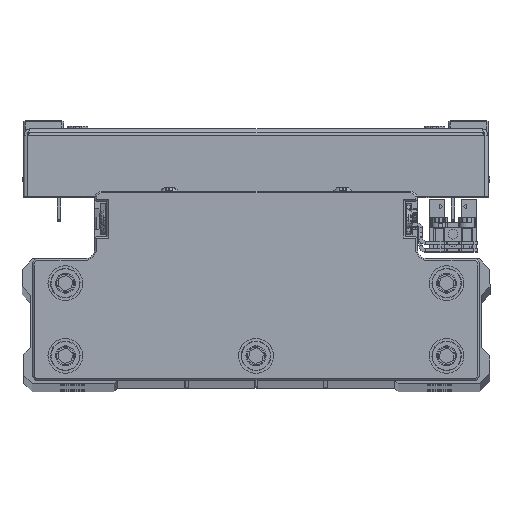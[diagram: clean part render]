
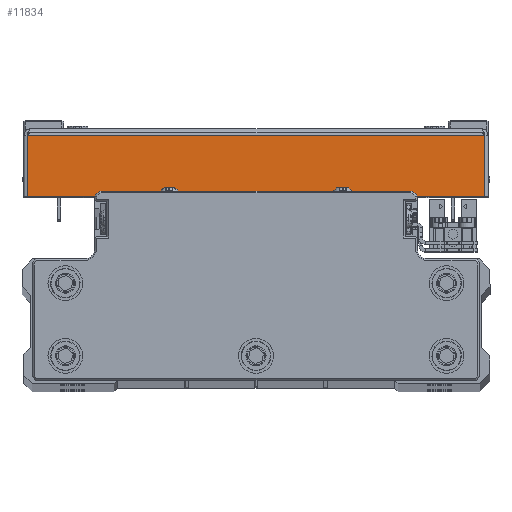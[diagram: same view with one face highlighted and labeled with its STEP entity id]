
A CAD part, top view. The second image highlights one B-rep face of the part: STEP entity #11834.
In plain terms, the highlighted planar face has unit normal (0, 0, 1) as drawn and (1, 0, 0) by its records, which use the part's own axes.
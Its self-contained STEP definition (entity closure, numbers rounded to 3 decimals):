
#1142 = CARTESIAN_POINT ( 'NONE',  ( 100., 1., 65.929 ) ) ;
#3382 = EDGE_CURVE ( 'NONE', #39316, #17747, #28381, .T. ) ;
#3865 = ORIENTED_EDGE ( 'NONE', *, *, #35550, .T. ) ;
#6025 = LINE ( 'NONE', #20052, #43029 ) ;
#10918 = DIRECTION ( 'NONE',  ( 0., 0., 1. ) ) ;
#10931 = VECTOR ( 'NONE', #40351, 1000. ) ;
#11445 = VECTOR ( 'NONE', #43370, 1000. ) ;
#11834 = ADVANCED_FACE ( 'NONE', ( #15943 ), #29958, .F. ) ;
#11977 = ORIENTED_EDGE ( 'NONE', *, *, #3382, .F. ) ;
#12318 = LINE ( 'NONE', #26333, #10931 ) ;
#12486 = DIRECTION ( 'NONE',  ( -1., 0., 0. ) ) ;
#12787 = ORIENTED_EDGE ( 'NONE', *, *, #40550, .F. ) ;
#15340 = LINE ( 'NONE', #29351, #11445 ) ;
#15943 = FACE_OUTER_BOUND ( 'NONE', #31593, .T. ) ;
#17747 = VERTEX_POINT ( 'NONE', #1142 ) ;
#19215 = AXIS2_PLACEMENT_3D ( 'NONE', #43957, #12486, #26512 ) ;
#20052 = CARTESIAN_POINT ( 'NONE',  ( 100., 0., -65.929 ) ) ;
#21204 = VERTEX_POINT ( 'NONE', #40613 ) ;
#24274 = ORIENTED_EDGE ( 'NONE', *, *, #36053, .T. ) ;
#24844 = VECTOR ( 'NONE', #10918, 1000. ) ;
#26333 = CARTESIAN_POINT ( 'NONE',  ( 100., 0., 65.929 ) ) ;
#26512 = DIRECTION ( 'NONE',  ( 0., -1., 0. ) ) ;
#28381 = LINE ( 'NONE', #42404, #24844 ) ;
#28740 = CARTESIAN_POINT ( 'NONE',  ( 100., 18.5, 65.929 ) ) ;
#29351 = CARTESIAN_POINT ( 'NONE',  ( 100., 18.5, 0. ) ) ;
#29958 = PLANE ( 'NONE',  #19215 ) ;
#31190 = VERTEX_POINT ( 'NONE', #28740 ) ;
#31593 = EDGE_LOOP ( 'NONE', ( #11977, #24274, #3865, #12787 ) ) ;
#34060 = DIRECTION ( 'NONE',  ( 0., 1., 0. ) ) ;
#35550 = EDGE_CURVE ( 'NONE', #21204, #31190, #15340, .T. ) ;
#36053 = EDGE_CURVE ( 'NONE', #39316, #21204, #6025, .T. ) ;
#38194 = CARTESIAN_POINT ( 'NONE',  ( 100., 1., -65.929 ) ) ;
#39316 = VERTEX_POINT ( 'NONE', #38194 ) ;
#40351 = DIRECTION ( 'NONE',  ( 0., 1., 0. ) ) ;
#40550 = EDGE_CURVE ( 'NONE', #17747, #31190, #12318, .T. ) ;
#40613 = CARTESIAN_POINT ( 'NONE',  ( 100., 18.5, -65.929 ) ) ;
#42404 = CARTESIAN_POINT ( 'NONE',  ( 100., 1., 67. ) ) ;
#43029 = VECTOR ( 'NONE', #34060, 1000. ) ;
#43370 = DIRECTION ( 'NONE',  ( 0., 0., 1. ) ) ;
#43957 = CARTESIAN_POINT ( 'NONE',  ( 100., 0., 0. ) ) ;
